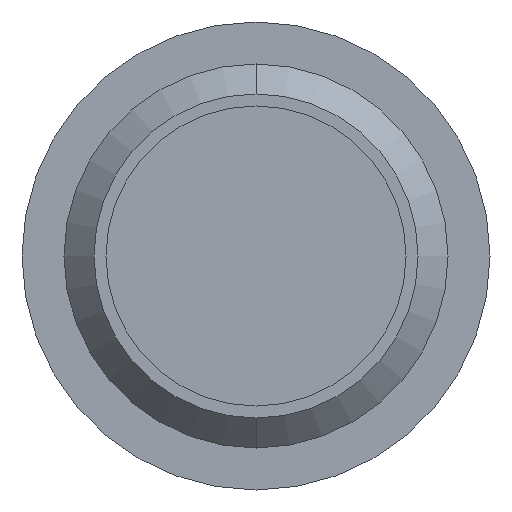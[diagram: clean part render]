
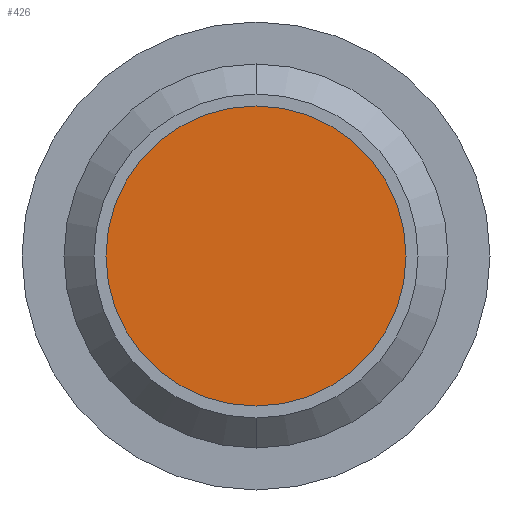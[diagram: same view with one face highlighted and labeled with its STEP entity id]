
A CAD part, front view. The second image highlights one B-rep face of the part: STEP entity #426.
In plain terms, the highlighted planar face has unit normal (0, -1, 0).
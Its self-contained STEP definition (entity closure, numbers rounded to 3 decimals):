
#131=CARTESIAN_POINT('',(0.,0.,0.));
#132=DIRECTION('',(0.,1.,0.));
#133=DIRECTION('',(0.,0.,-1.));
#134=AXIS2_PLACEMENT_3D('',#131,#132,#133);
#140=CARTESIAN_POINT('',(0.,0.,0.));
#141=DIRECTION('',(0.,-1.,0.));
#142=DIRECTION('',(0.,0.,-1.));
#143=AXIS2_PLACEMENT_3D('',#140,#141,#142);
#149=CARTESIAN_POINT('',(0.,0.,-1.25));
#151=VERTEX_POINT('',#149);
#169=CARTESIAN_POINT('',(0.,0.,1.25));
#171=VERTEX_POINT('',#169);
#417=CARTESIAN_POINT('',(0.,0.,0.));
#418=DIRECTION('',(0.,1.,0.));
#419=DIRECTION('',(0.,0.,-1.));
#420=AXIS2_PLACEMENT_3D('',#417,#418,#419);
#421=PLANE('',#420);
#422=ORIENTED_EDGE('',*,*,#410,.F.);
#423=ORIENTED_EDGE('',*,*,#399,.T.);
#424=EDGE_LOOP('',(#422,#423));
#425=FACE_OUTER_BOUND('',#424,.F.);
#426=ADVANCED_FACE('',(#425),#421,.F.);
#135=CIRCLE('',#134,1.25);
#144=CIRCLE('',#143,1.25);
#399=EDGE_CURVE('',#151,#171,#135,.T.);
#410=EDGE_CURVE('',#151,#171,#144,.T.);
